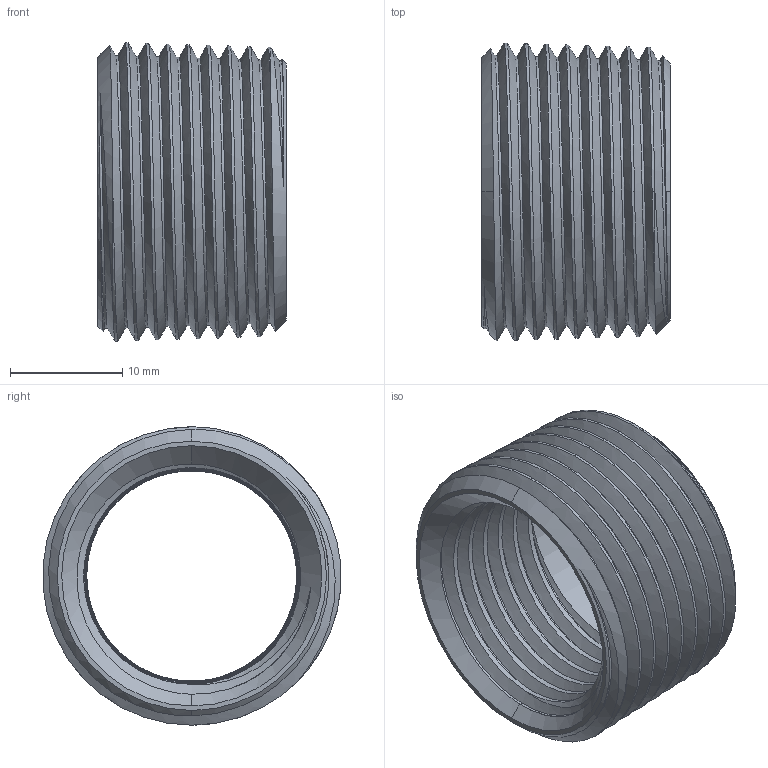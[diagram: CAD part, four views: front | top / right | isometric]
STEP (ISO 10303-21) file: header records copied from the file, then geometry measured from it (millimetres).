
FILE_DESCRIPTION (( 'STEP AP203' ), '1' );
FILE_NAME ('44605K262.step', '2012-03-22T17:23:52', ( 't2jrg' ), ( '' ), 'SwSTEP 2.0', 'SolidWorks 2009', '' );
FILE_SCHEMA (( 'CONFIG_CONTROL_DESIGN' ));
Length unit declared in the file: inch
Products named in the file (1): 44605K262
Bounding box: 16.76 x 26.49 x 26.55 mm (x, y, z)
Volume: 2707.9 mm3; surface area: 3927.4 mm2
Topology: 1 solids, 1 shells, 49 faces, 138 edges, 92 vertices
Faces by surface type: cone 38, bspline 6, plane 3, cylinder 2
Entity records: 10850 total; most frequent: CARTESIAN_POINT 9671, ORIENTED_EDGE 276, DIRECTION 154, EDGE_CURVE 138, VERTEX_POINT 92, B_SPLINE_CURVE_WITH_KNOTS 86, AXIS2_PLACEMENT_3D 58, EDGE_LOOP 52
